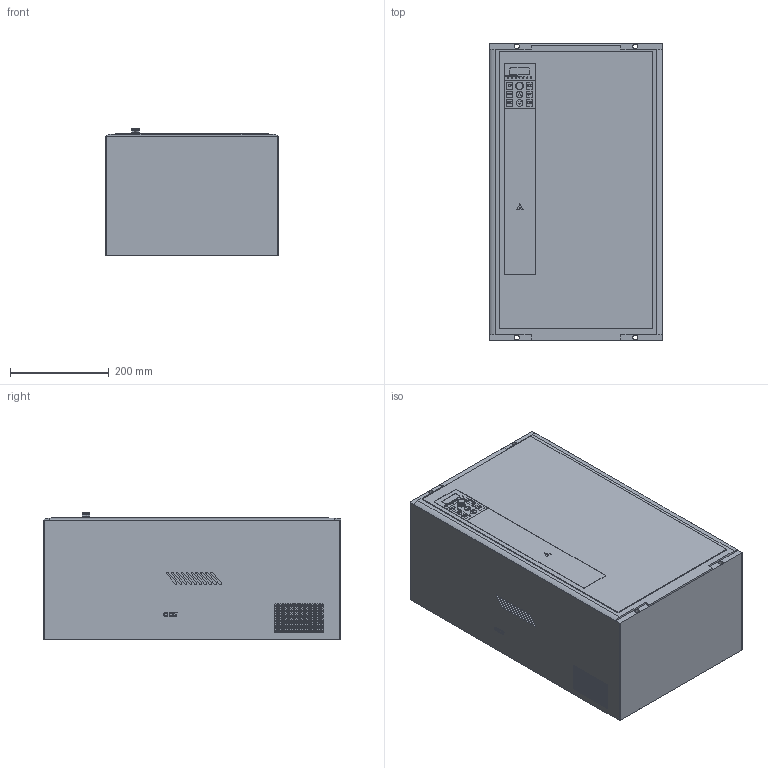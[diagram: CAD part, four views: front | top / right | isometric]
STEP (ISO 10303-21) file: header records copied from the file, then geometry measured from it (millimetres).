
FILE_DESCRIPTION(/* description */ (''),/* implementation_level */ '2;1');
FILE_NAME(/* name */ 'D:\2 ДОГОВОР ЧИНТ\Выслать\CHINT 10.03.2019\NVF2G\NVF2G-45 TS4(55 PS4) NVF2G-55 TS4(75 PS4).stp',/* time_stamp */ '2019-03-11T18:53:11+03:00',/* author */ ('RSagdiev'),/* organization */ (''),/* preprocessor_version */ 'ST-DEVELOPER v16.5',/* originating_system */ 'Autodesk Inventor 2017',/* authorisation */ '');
FILE_SCHEMA (('AUTOMOTIVE_DESIGN { 1 0 10303 214 3 1 1 }'));
Length unit declared in the file: millimetre
Products named in the file (1): NVF2G-45 TS4(55 PS4) NVF2G-55 TS4(75 PS4)
Bounding box: 352.1 x 603 x 257 mm (x, y, z)
Volume: 52299287.4 mm3; surface area: 1758548.5 mm2
Topology: 15 solids, 15 shells, 1643 faces, 3858 edges, 2572 vertices
Faces by surface type: plane 1044, cylinder 316, bspline 193, cone 90
Full cylindrical faces by diameter (mm): 2 x7, 4 x240, 10 x4, 13 x3
Entity records: 47334 total; most frequent: CARTESIAN_POINT 11340, ORIENTED_EDGE 7208, DIRECTION 6752, EDGE_CURVE 3604, VERTEX_POINT 2572, AXIS2_PLACEMENT_3D 2263, EDGE_LOOP 2232, LINE 2226
